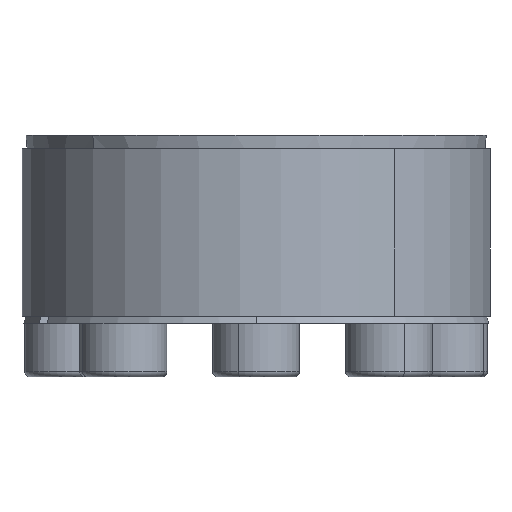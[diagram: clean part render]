
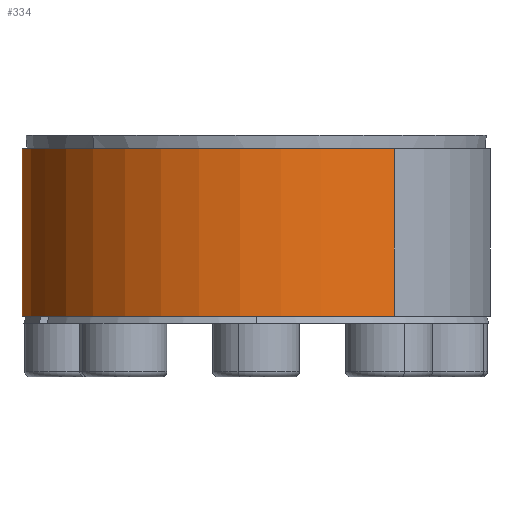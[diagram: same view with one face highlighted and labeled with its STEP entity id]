
A CAD part, left-side view. The second image highlights one B-rep face of the part: STEP entity #334.
In plain terms, the highlighted cylindrical face has radius 34.985 mm (diameter 69.97 mm), a partial arc.
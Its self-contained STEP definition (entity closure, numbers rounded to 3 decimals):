
#27 = FACE_OUTER_BOUND ( 'NONE', #7952, .T. ) ;
#281 = VERTEX_POINT ( 'NONE', #8287 ) ;
#334 = ADVANCED_FACE ( 'NONE', ( #27 ), #11437, .T. ) ;
#663 = CARTESIAN_POINT ( 'NONE',  ( 28.303, 20.564, 26.026 ) ) ;
#792 = CARTESIAN_POINT ( 'NONE',  ( 28.303, 20.564, 26.026 ) ) ;
#858 = LINE ( 'NONE', #9720, #10894 ) ;
#1125 = DIRECTION ( 'NONE',  ( 0., 0., 1. ) ) ;
#1426 = EDGE_CURVE ( 'NONE', #10379, #281, #858, .T. ) ;
#1884 = VERTEX_POINT ( 'NONE', #792 ) ;
#1963 = CIRCLE ( 'NONE', #11660, 34.985 ) ;
#1990 = VECTOR ( 'NONE', #6492, 1000. ) ;
#2104 = CIRCLE ( 'NONE', #11309, 34.985 ) ;
#2945 = CARTESIAN_POINT ( 'NONE',  ( 28.303, 20.564, 1.026 ) ) ;
#2956 = EDGE_CURVE ( 'NONE', #1884, #10379, #1963, .T. ) ;
#3200 = DIRECTION ( 'NONE',  ( 0., 0., 1. ) ) ;
#4505 = DIRECTION ( 'NONE',  ( 0.809, 0.588, 0. ) ) ;
#4523 = EDGE_CURVE ( 'NONE', #6988, #281, #2104, .T. ) ;
#4912 = DIRECTION ( 'NONE',  ( 0., 0., -1. ) ) ;
#6492 = DIRECTION ( 'NONE',  ( 0., 0., -1. ) ) ;
#6584 = CARTESIAN_POINT ( 'NONE',  ( -28.303, -20.564, 26.026 ) ) ;
#6938 = CARTESIAN_POINT ( 'NONE',  ( 0., 0., 26.026 ) ) ;
#6988 = VERTEX_POINT ( 'NONE', #2945 ) ;
#7209 = ORIENTED_EDGE ( 'NONE', *, *, #4523, .T. ) ;
#7295 = AXIS2_PLACEMENT_3D ( 'NONE', #10281, #11253, #4505 ) ;
#7489 = ORIENTED_EDGE ( 'NONE', *, *, #1426, .F. ) ;
#7903 = DIRECTION ( 'NONE',  ( -0.809, -0.588, 0. ) ) ;
#7952 = EDGE_LOOP ( 'NONE', ( #7489, #11271, #10777, #7209 ) ) ;
#8287 = CARTESIAN_POINT ( 'NONE',  ( -28.303, -20.564, 1.026 ) ) ;
#8993 = CARTESIAN_POINT ( 'NONE',  ( 0., 0., 1.026 ) ) ;
#9720 = CARTESIAN_POINT ( 'NONE',  ( -28.303, -20.564, 26.026 ) ) ;
#9730 = LINE ( 'NONE', #663, #1990 ) ;
#9985 = DIRECTION ( 'NONE',  ( -0.809, -0.588, 0. ) ) ;
#10281 = CARTESIAN_POINT ( 'NONE',  ( 0., 0., 26.026 ) ) ;
#10342 = EDGE_CURVE ( 'NONE', #1884, #6988, #9730, .T. ) ;
#10379 = VERTEX_POINT ( 'NONE', #6584 ) ;
#10777 = ORIENTED_EDGE ( 'NONE', *, *, #10342, .T. ) ;
#10894 = VECTOR ( 'NONE', #4912, 1000. ) ;
#11253 = DIRECTION ( 'NONE',  ( 0., 0., -1. ) ) ;
#11271 = ORIENTED_EDGE ( 'NONE', *, *, #2956, .F. ) ;
#11309 = AXIS2_PLACEMENT_3D ( 'NONE', #8993, #3200, #9985 ) ;
#11437 = CYLINDRICAL_SURFACE ( 'NONE', #7295, 34.985 ) ;
#11660 = AXIS2_PLACEMENT_3D ( 'NONE', #6938, #1125, #7903 ) ;
